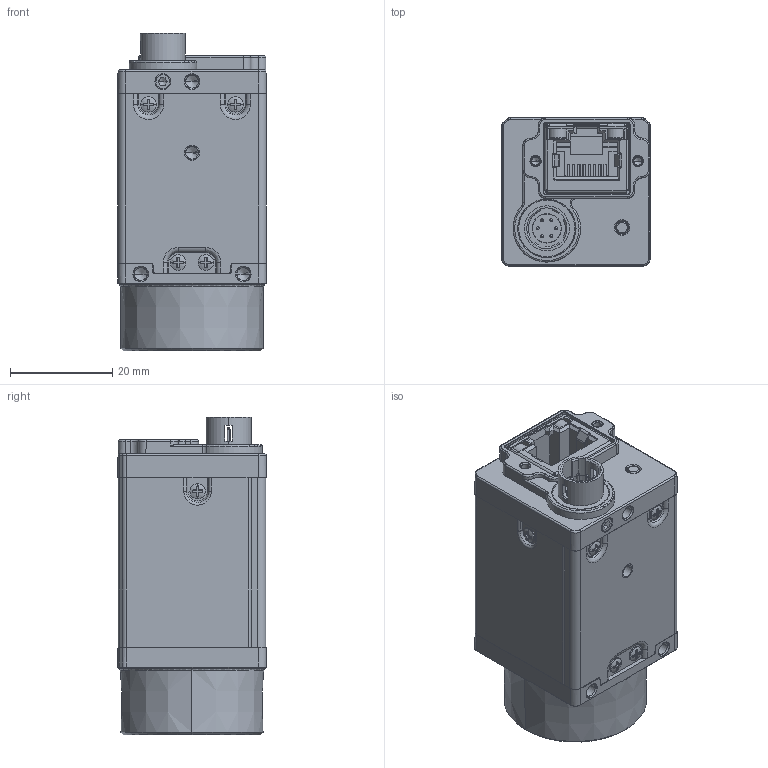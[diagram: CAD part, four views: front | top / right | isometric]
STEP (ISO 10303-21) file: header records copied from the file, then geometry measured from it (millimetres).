
FILE_DESCRIPTION((''),'2;1');
FILE_NAME('MV-CU020-19GMGC','2022-11-17T21:38:06',('zhangfeixiang8'),(''),'CREO PARAMETRIC BY PTC INC, 2020044','CREO PARAMETRIC BY PTC INC, 2020044','');
FILE_SCHEMA(('CONFIG_CONTROL_DESIGN','SHAPE_APPEARANCE_LAYERS_GROUPS'));
Products named in the file (1): MV-CU020-19GMGC
Bounding box: 29 x 29 x 62.13 mm (x, y, z)
Volume: 34295.4 mm3; surface area: 23893.2 mm2
Topology: 1 solids, 53 shells, 2806 faces, 7921 edges, 5170 vertices
Faces by surface type: plane 1247, cylinder 718, cone 361, bspline 259, torus 180, sphere 30, extrusion 11
Entity records: 138885 total; most frequent: CARTESIAN_POINT 43988, ORIENTED_EDGE 15440, DIRECTION 13815, EDGE_CURVE 7877, VERTEX_POINT 5170, AXIS2_PLACEMENT_3D 4991, PRESENTATION_STYLE_ASSIGNMENT 4602, STYLED_ITEM 4402
